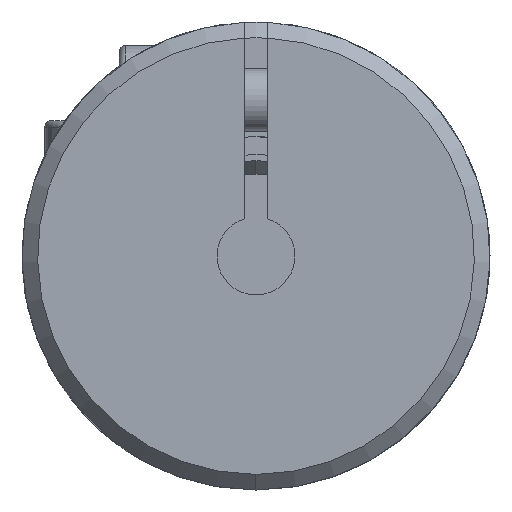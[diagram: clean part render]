
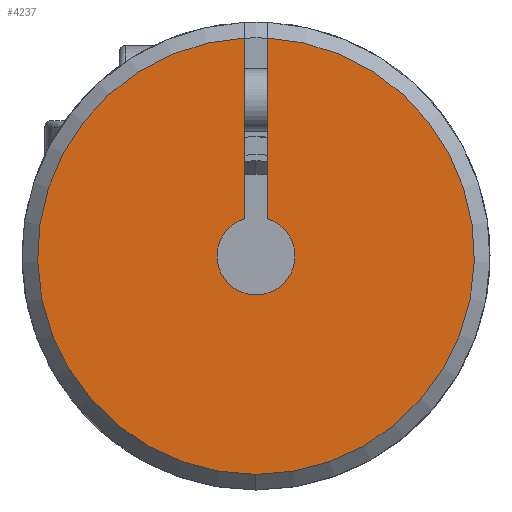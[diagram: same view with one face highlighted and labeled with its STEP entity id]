
A CAD part, left-side view. The second image highlights one B-rep face of the part: STEP entity #4237.
In plain terms, the highlighted planar face has unit normal (-1, 0, 0).
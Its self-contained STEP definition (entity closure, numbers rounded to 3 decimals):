
#1205=CARTESIAN_POINT('',(-17.1,0.,0.));
#1206=DIRECTION('',(-1.,0.,0.));
#1207=DIRECTION('',(0.,0.,-1.));
#1208=AXIS2_PLACEMENT_3D('',#1205,#1206,#1207);
#1210=CARTESIAN_POINT('',(-17.1,0.,0.));
#1211=DIRECTION('',(-1.,0.,0.));
#1212=DIRECTION('',(0.,0.054,0.999));
#1213=AXIS2_PLACEMENT_3D('',#1210,#1211,#1212);
#1220=CARTESIAN_POINT('',(-17.1,0.,0.));
#1221=DIRECTION('',(1.,0.,0.));
#1222=DIRECTION('',(0.,-0.3,0.954));
#1223=AXIS2_PLACEMENT_3D('',#1220,#1221,#1222);
#1235=DIRECTION('',(0.,0.,-1.));
#1236=VECTOR('',#1235,11.595);
#1237=CARTESIAN_POINT('',(-17.1,-0.75,13.98));
#1238=LINE('',#1237,#1236);
#1341=DIRECTION('',(0.,0.,1.));
#1342=VECTOR('',#1341,11.595);
#1343=CARTESIAN_POINT('',(-17.1,0.75,2.385));
#1344=LINE('',#1343,#1342);
#2813=CARTESIAN_POINT('',(-17.1,0.,-14.));
#2814=CARTESIAN_POINT('',(-17.1,-0.75,13.98));
#2815=VERTEX_POINT('',#2813);
#2816=VERTEX_POINT('',#2814);
#3029=CARTESIAN_POINT('',(-17.1,0.75,13.98));
#3030=VERTEX_POINT('',#3029);
#3146=CARTESIAN_POINT('',(-17.1,0.75,2.385));
#3148=VERTEX_POINT('',#3146);
#3149=CARTESIAN_POINT('',(-17.1,-0.75,2.385));
#3150=VERTEX_POINT('',#3149);
#4221=CARTESIAN_POINT('',(-17.1,0.,0.));
#4222=DIRECTION('',(-1.,0.,0.));
#4223=DIRECTION('',(0.,0.,1.));
#4224=AXIS2_PLACEMENT_3D('',#4221,#4222,#4223);
#4225=PLANE('',#4224);
#4227=ORIENTED_EDGE('',*,*,#4226,.F.);
#4229=ORIENTED_EDGE('',*,*,#4228,.F.);
#4230=ORIENTED_EDGE('',*,*,#4211,.F.);
#4232=ORIENTED_EDGE('',*,*,#4231,.F.);
#4234=ORIENTED_EDGE('',*,*,#4233,.F.);
#4235=EDGE_LOOP('',(#4227,#4229,#4230,#4232,#4234));
#4236=FACE_OUTER_BOUND('',#4235,.F.);
#1209=CIRCLE('',#1208,14.);
#1214=CIRCLE('',#1213,14.);
#1224=CIRCLE('',#1223,2.5);
#4211=EDGE_CURVE('',#2815,#2816,#1209,.T.);
#4226=EDGE_CURVE('',#3150,#3148,#1224,.T.);
#4228=EDGE_CURVE('',#2816,#3150,#1238,.T.);
#4231=EDGE_CURVE('',#3030,#2815,#1214,.T.);
#4233=EDGE_CURVE('',#3148,#3030,#1344,.T.);
#4237=ADVANCED_FACE('',(#4236),#4225,.T.);
